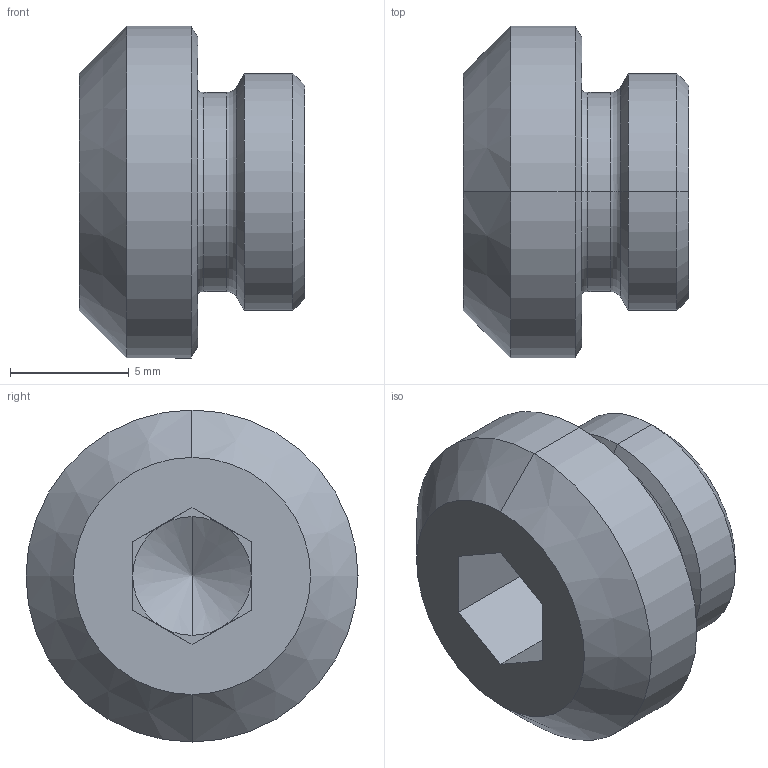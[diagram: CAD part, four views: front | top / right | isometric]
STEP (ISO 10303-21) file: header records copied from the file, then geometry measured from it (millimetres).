
FILE_DESCRIPTION (( 'STEP AP203' ), '1' );
FILE_NAME ('303-19346-2.STEP', '2024-05-15T06:58:50', ( '' ), ( '' ), 'SwSTEP 2.0', 'SolidWorks 2019', '' );
FILE_SCHEMA (( 'CONFIG_CONTROL_DESIGN' ));
Length unit declared in the file: millimetre
Products named in the file (1): 303-19346-2
Bounding box: 9.5 x 14 x 14 mm (x, y, z)
Volume: 840.7 mm3; surface area: 734.1 mm2
Topology: 1 solids, 1 shells, 38 faces, 82 edges, 45 vertices
Faces by surface type: plane 14, cone 12, cylinder 8, torus 4
Entity records: 1077 total; most frequent: DIRECTION 194, CARTESIAN_POINT 164, ORIENTED_EDGE 160, EDGE_CURVE 80, AXIS2_PLACEMENT_3D 75, VERTEX_POINT 45, VECTOR 44, LINE 44
